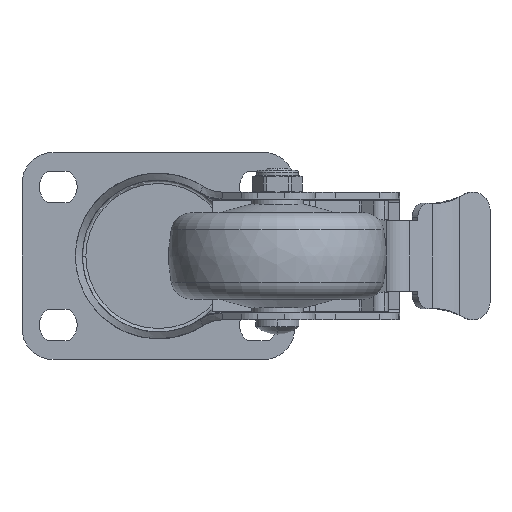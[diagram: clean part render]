
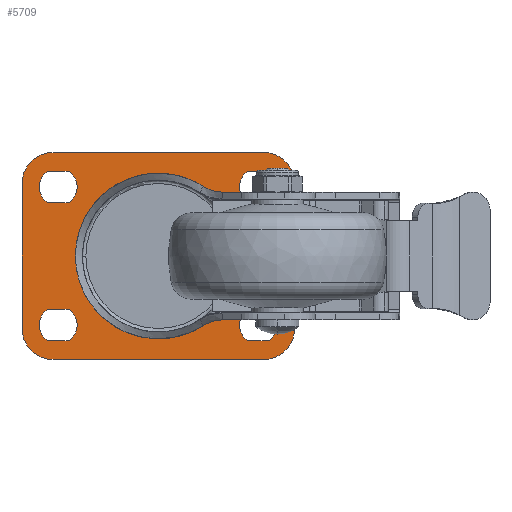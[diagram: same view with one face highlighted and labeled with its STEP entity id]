
A CAD part, front view. The second image highlights one B-rep face of the part: STEP entity #5709.
In plain terms, the highlighted planar face has unit normal (0, -1, 0).
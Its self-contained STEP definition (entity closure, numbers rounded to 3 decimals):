
#5028=CARTESIAN_POINT('',(0.,6.1,0.));
#5029=DIRECTION('',(0.,1.,0.));
#5030=DIRECTION('',(1.,0.,0.));
#5031=AXIS2_PLACEMENT_3D('',#5028,#5029,#5030);
#5033=CARTESIAN_POINT('',(0.,6.1,0.));
#5034=DIRECTION('',(0.,-1.,0.));
#5035=DIRECTION('',(1.,0.,0.));
#5036=AXIS2_PLACEMENT_3D('',#5033,#5034,#5035);
#5038=CARTESIAN_POINT('',(-30.5,6.1,-21.));
#5039=DIRECTION('',(0.,-1.,0.));
#5040=DIRECTION('',(-1.,0.,0.));
#5041=AXIS2_PLACEMENT_3D('',#5038,#5039,#5040);
#5043=DIRECTION('',(0.,0.,-1.));
#5044=VECTOR('',#5043,42.);
#5045=CARTESIAN_POINT('',(-39.5,6.1,21.));
#5046=LINE('',#5045,#5044);
#5047=CARTESIAN_POINT('',(-30.5,6.1,21.));
#5048=DIRECTION('',(0.,-1.,0.));
#5049=DIRECTION('',(0.,0.,1.));
#5050=AXIS2_PLACEMENT_3D('',#5047,#5048,#5049);
#5052=DIRECTION('',(-1.,0.,0.));
#5053=VECTOR('',#5052,61.);
#5054=CARTESIAN_POINT('',(30.5,6.1,30.));
#5055=LINE('',#5054,#5053);
#5056=CARTESIAN_POINT('',(30.5,6.1,21.));
#5057=DIRECTION('',(0.,-1.,0.));
#5058=DIRECTION('',(1.,0.,0.));
#5059=AXIS2_PLACEMENT_3D('',#5056,#5057,#5058);
#5061=DIRECTION('',(0.,0.,1.));
#5062=VECTOR('',#5061,42.);
#5063=CARTESIAN_POINT('',(39.5,6.1,-21.));
#5064=LINE('',#5063,#5062);
#5065=CARTESIAN_POINT('',(30.5,6.1,-21.));
#5066=DIRECTION('',(0.,-1.,0.));
#5067=DIRECTION('',(0.,0.,-1.));
#5068=AXIS2_PLACEMENT_3D('',#5065,#5066,#5067);
#5070=DIRECTION('',(1.,0.,0.));
#5071=VECTOR('',#5070,61.);
#5072=CARTESIAN_POINT('',(-30.5,6.1,-30.));
#5073=LINE('',#5072,#5071);
#5074=CARTESIAN_POINT('',(-29.,6.1,-20.));
#5075=DIRECTION('',(0.,1.,0.));
#5076=DIRECTION('',(-0.575,0.,-0.818));
#5077=AXIS2_PLACEMENT_3D('',#5074,#5075,#5076);
#5079=DIRECTION('',(-1.,0.,0.));
#5080=VECTOR('',#5079,6.325);
#5081=CARTESIAN_POINT('',(-25.838,6.1,-24.5));
#5082=LINE('',#5081,#5080);
#5083=CARTESIAN_POINT('',(-29.,6.1,-20.));
#5084=DIRECTION('',(0.,1.,0.));
#5085=DIRECTION('',(0.575,0.,0.818));
#5086=AXIS2_PLACEMENT_3D('',#5083,#5084,#5085);
#5088=DIRECTION('',(1.,0.,0.));
#5089=VECTOR('',#5088,6.325);
#5090=CARTESIAN_POINT('',(-32.162,6.1,-15.5));
#5091=LINE('',#5090,#5089);
#5092=CARTESIAN_POINT('',(29.,6.1,-20.));
#5093=DIRECTION('',(0.,1.,0.));
#5094=DIRECTION('',(-0.575,0.,-0.818));
#5095=AXIS2_PLACEMENT_3D('',#5092,#5093,#5094);
#5097=DIRECTION('',(-1.,0.,0.));
#5098=VECTOR('',#5097,6.325);
#5099=CARTESIAN_POINT('',(32.162,6.1,-24.5));
#5100=LINE('',#5099,#5098);
#5101=CARTESIAN_POINT('',(29.,6.1,-20.));
#5102=DIRECTION('',(0.,1.,0.));
#5103=DIRECTION('',(0.575,0.,0.818));
#5104=AXIS2_PLACEMENT_3D('',#5101,#5102,#5103);
#5106=DIRECTION('',(1.,0.,0.));
#5107=VECTOR('',#5106,6.325);
#5108=CARTESIAN_POINT('',(25.838,6.1,-15.5));
#5109=LINE('',#5108,#5107);
#5110=CARTESIAN_POINT('',(29.,6.1,20.));
#5111=DIRECTION('',(0.,1.,0.));
#5112=DIRECTION('',(-0.575,0.,-0.818));
#5113=AXIS2_PLACEMENT_3D('',#5110,#5111,#5112);
#5115=DIRECTION('',(-1.,0.,0.));
#5116=VECTOR('',#5115,6.325);
#5117=CARTESIAN_POINT('',(32.162,6.1,15.5));
#5118=LINE('',#5117,#5116);
#5119=CARTESIAN_POINT('',(29.,6.1,20.));
#5120=DIRECTION('',(0.,1.,0.));
#5121=DIRECTION('',(0.575,0.,0.818));
#5122=AXIS2_PLACEMENT_3D('',#5119,#5120,#5121);
#5124=DIRECTION('',(1.,0.,0.));
#5125=VECTOR('',#5124,6.325);
#5126=CARTESIAN_POINT('',(25.838,6.1,24.5));
#5127=LINE('',#5126,#5125);
#5128=CARTESIAN_POINT('',(-29.,6.1,20.));
#5129=DIRECTION('',(0.,1.,0.));
#5130=DIRECTION('',(-0.575,0.,-0.818));
#5131=AXIS2_PLACEMENT_3D('',#5128,#5129,#5130);
#5133=DIRECTION('',(-1.,0.,0.));
#5134=VECTOR('',#5133,6.325);
#5135=CARTESIAN_POINT('',(-25.838,6.1,15.5));
#5136=LINE('',#5135,#5134);
#5137=CARTESIAN_POINT('',(-29.,6.1,20.));
#5138=DIRECTION('',(0.,1.,0.));
#5139=DIRECTION('',(0.575,0.,0.818));
#5140=AXIS2_PLACEMENT_3D('',#5137,#5138,#5139);
#5142=DIRECTION('',(1.,0.,0.));
#5143=VECTOR('',#5142,6.325);
#5144=CARTESIAN_POINT('',(-32.162,6.1,24.5));
#5145=LINE('',#5144,#5143);
#5514=CARTESIAN_POINT('',(14.154,6.1,0.));
#5515=VERTEX_POINT('',#5514);
#5534=CARTESIAN_POINT('',(-14.154,6.1,0.));
#5535=VERTEX_POINT('',#5534);
#5544=CARTESIAN_POINT('',(-39.5,6.1,-21.));
#5545=CARTESIAN_POINT('',(-30.5,6.1,-30.));
#5546=VERTEX_POINT('',#5544);
#5547=VERTEX_POINT('',#5545);
#5548=CARTESIAN_POINT('',(-39.5,6.1,21.));
#5549=VERTEX_POINT('',#5548);
#5550=CARTESIAN_POINT('',(-30.5,6.1,30.));
#5551=VERTEX_POINT('',#5550);
#5552=CARTESIAN_POINT('',(30.5,6.1,30.));
#5553=VERTEX_POINT('',#5552);
#5554=CARTESIAN_POINT('',(39.5,6.1,21.));
#5555=VERTEX_POINT('',#5554);
#5556=CARTESIAN_POINT('',(39.5,6.1,-21.));
#5557=VERTEX_POINT('',#5556);
#5558=CARTESIAN_POINT('',(30.5,6.1,-30.));
#5559=VERTEX_POINT('',#5558);
#5576=CARTESIAN_POINT('',(-32.162,6.1,-24.5));
#5577=CARTESIAN_POINT('',(-32.162,6.1,-15.5));
#5578=VERTEX_POINT('',#5576);
#5579=VERTEX_POINT('',#5577);
#5580=CARTESIAN_POINT('',(-25.838,6.1,-15.5));
#5581=VERTEX_POINT('',#5580);
#5582=CARTESIAN_POINT('',(-25.838,6.1,-24.5));
#5583=VERTEX_POINT('',#5582);
#5584=CARTESIAN_POINT('',(25.838,6.1,-24.5));
#5585=CARTESIAN_POINT('',(25.838,6.1,-15.5));
#5586=VERTEX_POINT('',#5584);
#5587=VERTEX_POINT('',#5585);
#5588=CARTESIAN_POINT('',(32.162,6.1,-15.5));
#5589=VERTEX_POINT('',#5588);
#5590=CARTESIAN_POINT('',(32.162,6.1,-24.5));
#5591=VERTEX_POINT('',#5590);
#5592=CARTESIAN_POINT('',(25.838,6.1,15.5));
#5593=CARTESIAN_POINT('',(25.838,6.1,24.5));
#5594=VERTEX_POINT('',#5592);
#5595=VERTEX_POINT('',#5593);
#5596=CARTESIAN_POINT('',(32.162,6.1,24.5));
#5597=VERTEX_POINT('',#5596);
#5598=CARTESIAN_POINT('',(32.162,6.1,15.5));
#5599=VERTEX_POINT('',#5598);
#5600=CARTESIAN_POINT('',(-32.162,6.1,15.5));
#5601=CARTESIAN_POINT('',(-32.162,6.1,24.5));
#5602=VERTEX_POINT('',#5600);
#5603=VERTEX_POINT('',#5601);
#5604=CARTESIAN_POINT('',(-25.838,6.1,24.5));
#5605=VERTEX_POINT('',#5604);
#5606=CARTESIAN_POINT('',(-25.838,6.1,15.5));
#5607=VERTEX_POINT('',#5606);
#5640=CARTESIAN_POINT('',(0.,6.1,0.));
#5641=DIRECTION('',(0.,-1.,0.));
#5642=DIRECTION('',(-1.,0.,0.));
#5643=AXIS2_PLACEMENT_3D('',#5640,#5641,#5642);
#5644=PLANE('',#5643);
#5646=ORIENTED_EDGE('',*,*,#5645,.F.);
#5648=ORIENTED_EDGE('',*,*,#5647,.F.);
#5650=ORIENTED_EDGE('',*,*,#5649,.F.);
#5652=ORIENTED_EDGE('',*,*,#5651,.F.);
#5654=ORIENTED_EDGE('',*,*,#5653,.F.);
#5656=ORIENTED_EDGE('',*,*,#5655,.F.);
#5658=ORIENTED_EDGE('',*,*,#5657,.F.);
#5660=ORIENTED_EDGE('',*,*,#5659,.F.);
#5661=EDGE_LOOP('',(#5646,#5648,#5650,#5652,#5654,#5656,#5658,#5660));
#5662=FACE_OUTER_BOUND('',#5661,.F.);
#5664=ORIENTED_EDGE('',*,*,#5663,.F.);
#5666=ORIENTED_EDGE('',*,*,#5665,.T.);
#5667=EDGE_LOOP('',(#5664,#5666));
#5668=FACE_BOUND('',#5667,.F.);
#5670=ORIENTED_EDGE('',*,*,#5669,.F.);
#5672=ORIENTED_EDGE('',*,*,#5671,.F.);
#5674=ORIENTED_EDGE('',*,*,#5673,.F.);
#5676=ORIENTED_EDGE('',*,*,#5675,.F.);
#5677=EDGE_LOOP('',(#5670,#5672,#5674,#5676));
#5678=FACE_BOUND('',#5677,.F.);
#5680=ORIENTED_EDGE('',*,*,#5679,.F.);
#5682=ORIENTED_EDGE('',*,*,#5681,.F.);
#5684=ORIENTED_EDGE('',*,*,#5683,.F.);
#5686=ORIENTED_EDGE('',*,*,#5685,.F.);
#5687=EDGE_LOOP('',(#5680,#5682,#5684,#5686));
#5688=FACE_BOUND('',#5687,.F.);
#5690=ORIENTED_EDGE('',*,*,#5689,.F.);
#5692=ORIENTED_EDGE('',*,*,#5691,.F.);
#5694=ORIENTED_EDGE('',*,*,#5693,.F.);
#5696=ORIENTED_EDGE('',*,*,#5695,.F.);
#5697=EDGE_LOOP('',(#5690,#5692,#5694,#5696));
#5698=FACE_BOUND('',#5697,.F.);
#5700=ORIENTED_EDGE('',*,*,#5699,.F.);
#5702=ORIENTED_EDGE('',*,*,#5701,.F.);
#5704=ORIENTED_EDGE('',*,*,#5703,.F.);
#5706=ORIENTED_EDGE('',*,*,#5705,.F.);
#5707=EDGE_LOOP('',(#5700,#5702,#5704,#5706));
#5708=FACE_BOUND('',#5707,.F.);
#5032=CIRCLE('',#5031,14.154);
#5037=CIRCLE('',#5036,14.154);
#5042=CIRCLE('',#5041,9.);
#5051=CIRCLE('',#5050,9.);
#5060=CIRCLE('',#5059,9.);
#5069=CIRCLE('',#5068,9.);
#5078=CIRCLE('',#5077,5.5);
#5087=CIRCLE('',#5086,5.5);
#5096=CIRCLE('',#5095,5.5);
#5105=CIRCLE('',#5104,5.5);
#5114=CIRCLE('',#5113,5.5);
#5123=CIRCLE('',#5122,5.5);
#5132=CIRCLE('',#5131,5.5);
#5141=CIRCLE('',#5140,5.5);
#5645=EDGE_CURVE('',#5546,#5547,#5042,.T.);
#5647=EDGE_CURVE('',#5549,#5546,#5046,.T.);
#5649=EDGE_CURVE('',#5551,#5549,#5051,.T.);
#5651=EDGE_CURVE('',#5553,#5551,#5055,.T.);
#5653=EDGE_CURVE('',#5555,#5553,#5060,.T.);
#5655=EDGE_CURVE('',#5557,#5555,#5064,.T.);
#5657=EDGE_CURVE('',#5559,#5557,#5069,.T.);
#5659=EDGE_CURVE('',#5547,#5559,#5073,.T.);
#5663=EDGE_CURVE('',#5515,#5535,#5032,.T.);
#5665=EDGE_CURVE('',#5515,#5535,#5037,.T.);
#5669=EDGE_CURVE('',#5578,#5579,#5078,.T.);
#5671=EDGE_CURVE('',#5583,#5578,#5082,.T.);
#5673=EDGE_CURVE('',#5581,#5583,#5087,.T.);
#5675=EDGE_CURVE('',#5579,#5581,#5091,.T.);
#5679=EDGE_CURVE('',#5586,#5587,#5096,.T.);
#5681=EDGE_CURVE('',#5591,#5586,#5100,.T.);
#5683=EDGE_CURVE('',#5589,#5591,#5105,.T.);
#5685=EDGE_CURVE('',#5587,#5589,#5109,.T.);
#5689=EDGE_CURVE('',#5594,#5595,#5114,.T.);
#5691=EDGE_CURVE('',#5599,#5594,#5118,.T.);
#5693=EDGE_CURVE('',#5597,#5599,#5123,.T.);
#5695=EDGE_CURVE('',#5595,#5597,#5127,.T.);
#5699=EDGE_CURVE('',#5602,#5603,#5132,.T.);
#5701=EDGE_CURVE('',#5607,#5602,#5136,.T.);
#5703=EDGE_CURVE('',#5605,#5607,#5141,.T.);
#5705=EDGE_CURVE('',#5603,#5605,#5145,.T.);
#5709=ADVANCED_FACE('',(#5662,#5668,#5678,#5688,#5698,#5708),#5644,.T.);
